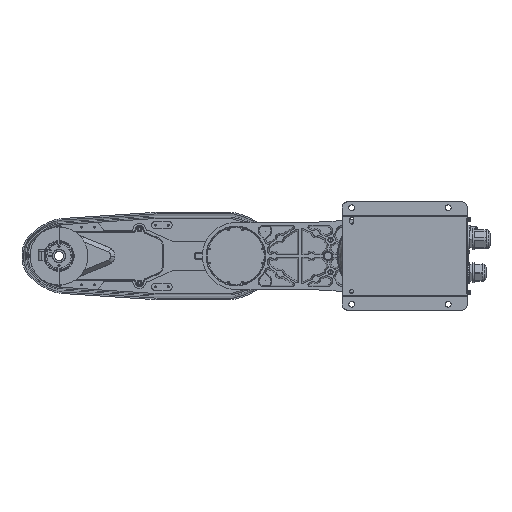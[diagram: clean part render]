
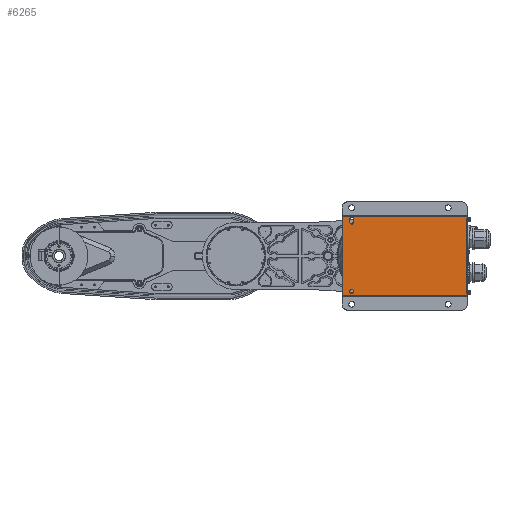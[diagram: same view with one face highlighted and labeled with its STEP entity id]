
A CAD part, front view. The second image highlights one B-rep face of the part: STEP entity #6265.
In plain terms, the highlighted planar face has unit normal (0, -1, 0).
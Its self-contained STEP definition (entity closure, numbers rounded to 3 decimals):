
#30 = VERTEX_POINT ( 'NONE', #103202 ) ;
#912 = VERTEX_POINT ( 'NONE', #92969 ) ;
#1127 = CARTESIAN_POINT ( 'NONE',  ( 135., 1., 61.5 ) ) ;
#3403 = EDGE_CURVE ( 'NONE', #90855, #77119, #37835, .T. ) ;
#5806 = LINE ( 'NONE', #6348, #102153 ) ;
#6265 = ADVANCED_FACE ( 'NONE', ( #59246, #36068, #17197 ), #16668, .F. ) ;
#6348 = CARTESIAN_POINT ( 'NONE',  ( -48., 1., 52.5 ) ) ;
#8398 = EDGE_CURVE ( 'NONE', #45905, #37013, #90141, .T. ) ;
#8885 = DIRECTION ( 'NONE',  ( 1., 0., 0. ) ) ;
#9980 = CARTESIAN_POINT ( 'NONE',  ( -45., 1., 52.5 ) ) ;
#12206 = EDGE_LOOP ( 'NONE', ( #33838, #12460 ) ) ;
#12460 = ORIENTED_EDGE ( 'NONE', *, *, #51032, .T. ) ;
#13080 = VECTOR ( 'NONE', #97311, 1000. ) ;
#13699 = DIRECTION ( 'NONE',  ( 0., 1., 0. ) ) ;
#14693 = CARTESIAN_POINT ( 'NONE',  ( -60., 1., -61.5 ) ) ;
#16668 = PLANE ( 'NONE',  #103865 ) ;
#17058 = CARTESIAN_POINT ( 'NONE',  ( -48., 1., 57.5 ) ) ;
#17197 = FACE_BOUND ( 'NONE', #29091, .T. ) ;
#19939 = VERTEX_POINT ( 'NONE', #37408 ) ;
#20305 = DIRECTION ( 'NONE',  ( 0., 1., 0. ) ) ;
#22471 = ORIENTED_EDGE ( 'NONE', *, *, #66380, .T. ) ;
#23124 = VERTEX_POINT ( 'NONE', #103558 ) ;
#24474 = EDGE_CURVE ( 'NONE', #74343, #45905, #5806, .T. ) ;
#27330 = LINE ( 'NONE', #101000, #63626 ) ;
#27922 = VECTOR ( 'NONE', #105842, 1000. ) ;
#29091 = EDGE_LOOP ( 'NONE', ( #29274, #22471, #109636, #103015, #103001 ) ) ;
#29274 = ORIENTED_EDGE ( 'NONE', *, *, #3403, .T. ) ;
#29821 = DIRECTION ( 'NONE',  ( 0., 1., 0. ) ) ;
#29925 = DIRECTION ( 'NONE',  ( 0., 0., 1. ) ) ;
#30791 = CARTESIAN_POINT ( 'NONE',  ( -45., 1., 52.5 ) ) ;
#32596 = DIRECTION ( 'NONE',  ( 1., 0., 0. ) ) ;
#33387 = EDGE_CURVE ( 'NONE', #23124, #30, #40356, .T. ) ;
#33838 = ORIENTED_EDGE ( 'NONE', *, *, #94659, .T. ) ;
#36068 = FACE_BOUND ( 'NONE', #12206, .T. ) ;
#36285 = ORIENTED_EDGE ( 'NONE', *, *, #61059, .T. ) ;
#37013 = VERTEX_POINT ( 'NONE', #76895 ) ;
#37408 = CARTESIAN_POINT ( 'NONE',  ( -45., 1., -52. ) ) ;
#37586 = CARTESIAN_POINT ( 'NONE',  ( -45., 1., -55. ) ) ;
#37835 = CIRCLE ( 'NONE', #103192, 3. ) ;
#38828 = LINE ( 'NONE', #72015, #27922 ) ;
#40356 = LINE ( 'NONE', #81871, #64880 ) ;
#41873 = EDGE_LOOP ( 'NONE', ( #96073, #36285, #47536, #95528 ) ) ;
#43607 = CIRCLE ( 'NONE', #79009, 3. ) ;
#43643 = CARTESIAN_POINT ( 'NONE',  ( -45., 1., -55. ) ) ;
#44746 = DIRECTION ( 'NONE',  ( 0., 1., 0. ) ) ;
#45791 = DIRECTION ( 'NONE',  ( 0., 0., -1. ) ) ;
#45905 = VERTEX_POINT ( 'NONE', #17058 ) ;
#47536 = ORIENTED_EDGE ( 'NONE', *, *, #33387, .F. ) ;
#51032 = EDGE_CURVE ( 'NONE', #19939, #51762, #43607, .T. ) ;
#51762 = VERTEX_POINT ( 'NONE', #58211 ) ;
#52603 = DIRECTION ( 'NONE',  ( 0., 1., 0. ) ) ;
#52765 = DIRECTION ( 'NONE',  ( 0., 0., -1. ) ) ;
#53125 = AXIS2_PLACEMENT_3D ( 'NONE', #9980, #52603, #70287 ) ;
#53776 = CARTESIAN_POINT ( 'NONE',  ( -42., 1., 52.5 ) ) ;
#55120 = DIRECTION ( 'NONE',  ( 0., 0., 1. ) ) ;
#55878 = CARTESIAN_POINT ( 'NONE',  ( 135., 1., -61.5 ) ) ;
#57405 = EDGE_CURVE ( 'NONE', #912, #67995, #38828, .T. ) ;
#58211 = CARTESIAN_POINT ( 'NONE',  ( -45., 1., -58. ) ) ;
#58422 = CIRCLE ( 'NONE', #107991, 3. ) ;
#59246 = FACE_OUTER_BOUND ( 'NONE', #41873, .T. ) ;
#59682 = CARTESIAN_POINT ( 'NONE',  ( -48., 1., 52.5 ) ) ;
#61059 = EDGE_CURVE ( 'NONE', #912, #30, #95826, .T. ) ;
#63510 = DIRECTION ( 'NONE',  ( -1., 0., 0. ) ) ;
#63626 = VECTOR ( 'NONE', #52765, 1000. ) ;
#64880 = VECTOR ( 'NONE', #32596, 1000. ) ;
#66380 = EDGE_CURVE ( 'NONE', #77119, #74343, #93758, .T. ) ;
#67995 = VERTEX_POINT ( 'NONE', #14693 ) ;
#69634 = LINE ( 'NONE', #105635, #13080 ) ;
#70017 = EDGE_CURVE ( 'NONE', #67995, #23124, #69634, .T. ) ;
#70287 = DIRECTION ( 'NONE',  ( 0., 0., -1. ) ) ;
#72015 = CARTESIAN_POINT ( 'NONE',  ( 135., 1., -61.5 ) ) ;
#72377 = CARTESIAN_POINT ( 'NONE',  ( -45., 1., 57.5 ) ) ;
#74343 = VERTEX_POINT ( 'NONE', #59682 ) ;
#75578 = CARTESIAN_POINT ( 'NONE',  ( -45., 1., 49.5 ) ) ;
#76895 = CARTESIAN_POINT ( 'NONE',  ( -42., 1., 57.5 ) ) ;
#77119 = VERTEX_POINT ( 'NONE', #75578 ) ;
#79009 = AXIS2_PLACEMENT_3D ( 'NONE', #37586, #29821, #80155 ) ;
#79638 = VECTOR ( 'NONE', #29925, 1000. ) ;
#80155 = DIRECTION ( 'NONE',  ( 0., 0., 1. ) ) ;
#81871 = CARTESIAN_POINT ( 'NONE',  ( -60., 1., 61.5 ) ) ;
#84737 = DIRECTION ( 'NONE',  ( 0., 1., 0. ) ) ;
#90141 = CIRCLE ( 'NONE', #98991, 3. ) ;
#90855 = VERTEX_POINT ( 'NONE', #53776 ) ;
#91765 = EDGE_CURVE ( 'NONE', #37013, #90855, #27330, .T. ) ;
#92969 = CARTESIAN_POINT ( 'NONE',  ( 135., 1., -61.5 ) ) ;
#93758 = CIRCLE ( 'NONE', #53125, 3. ) ;
#94659 = EDGE_CURVE ( 'NONE', #51762, #19939, #58422, .T. ) ;
#95140 = DIRECTION ( 'NONE',  ( 0., 0., -1. ) ) ;
#95528 = ORIENTED_EDGE ( 'NONE', *, *, #70017, .F. ) ;
#95826 = LINE ( 'NONE', #55878, #79638 ) ;
#96073 = ORIENTED_EDGE ( 'NONE', *, *, #57405, .F. ) ;
#97311 = DIRECTION ( 'NONE',  ( 0., 0., 1. ) ) ;
#98991 = AXIS2_PLACEMENT_3D ( 'NONE', #72377, #13699, #63510 ) ;
#101000 = CARTESIAN_POINT ( 'NONE',  ( -42., 1., 57.5 ) ) ;
#102153 = VECTOR ( 'NONE', #55120, 1000. ) ;
#103001 = ORIENTED_EDGE ( 'NONE', *, *, #91765, .T. ) ;
#103015 = ORIENTED_EDGE ( 'NONE', *, *, #8398, .T. ) ;
#103192 = AXIS2_PLACEMENT_3D ( 'NONE', #30791, #20305, #45791 ) ;
#103202 = CARTESIAN_POINT ( 'NONE',  ( 135., 1., 61.5 ) ) ;
#103558 = CARTESIAN_POINT ( 'NONE',  ( -60., 1., 61.5 ) ) ;
#103865 = AXIS2_PLACEMENT_3D ( 'NONE', #1127, #84737, #8885 ) ;
#105635 = CARTESIAN_POINT ( 'NONE',  ( -60., 1., -61.5 ) ) ;
#105842 = DIRECTION ( 'NONE',  ( -1., 0., 0. ) ) ;
#107991 = AXIS2_PLACEMENT_3D ( 'NONE', #43643, #44746, #95140 ) ;
#109636 = ORIENTED_EDGE ( 'NONE', *, *, #24474, .T. ) ;
